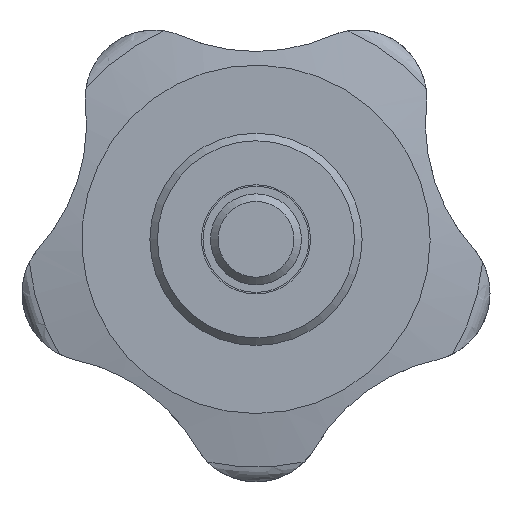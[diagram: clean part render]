
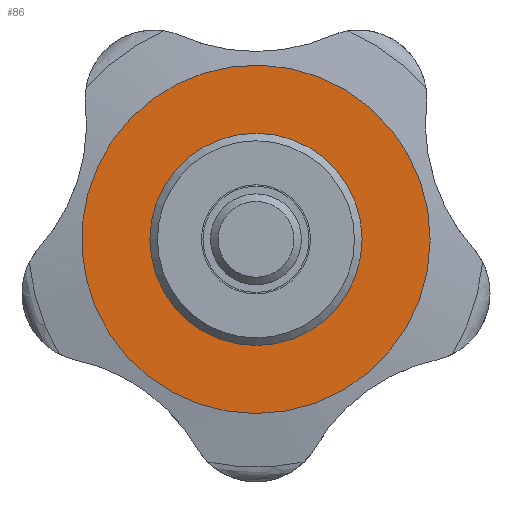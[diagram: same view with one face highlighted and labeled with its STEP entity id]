
A CAD part, front view. The second image highlights one B-rep face of the part: STEP entity #86.
In plain terms, the highlighted planar face has unit normal (0, -1, 0).
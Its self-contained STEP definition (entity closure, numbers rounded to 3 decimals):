
#86 = ADVANCED_FACE( '', ( #133, #134 ), #135, .F. );
#133 = FACE_BOUND( '', #214, .T. );
#134 = FACE_OUTER_BOUND( '', #215, .T. );
#135 = PLANE( '', #216 );
#214 = EDGE_LOOP( '', ( #419 ) );
#215 = EDGE_LOOP( '', ( #420 ) );
#216 = AXIS2_PLACEMENT_3D( '', #421, #422, #423 );
#419 = ORIENTED_EDGE( '', *, *, #617, .F. );
#420 = ORIENTED_EDGE( '', *, *, #606, .T. );
#421 = CARTESIAN_POINT( '', ( 11.49, 12.5, 0. ) );
#422 = DIRECTION( '', ( 0., 1., 0. ) );
#423 = DIRECTION( '', ( 0., 0., 1. ) );
#606 = EDGE_CURVE( '', #729, #729, #730, .T. );
#617 = EDGE_CURVE( '', #741, #741, #742, .T. );
#729 = VERTEX_POINT( '', #1220 );
#730 = CIRCLE( '', #1221, 11.49 );
#741 = VERTEX_POINT( '', #1297 );
#742 = CIRCLE( '', #1298, 7. );
#1220 = CARTESIAN_POINT( '', ( 0., 12.5, -11.49 ) );
#1221 = AXIS2_PLACEMENT_3D( '', #1406, #1407, #1408 );
#1297 = CARTESIAN_POINT( '', ( 0., 12.5, -7. ) );
#1298 = AXIS2_PLACEMENT_3D( '', #1424, #1425, #1426 );
#1406 = CARTESIAN_POINT( '', ( 0., 12.5, 0. ) );
#1407 = DIRECTION( '', ( 0., -1., 0. ) );
#1408 = DIRECTION( '', ( 0., 0., -1. ) );
#1424 = CARTESIAN_POINT( '', ( 0., 12.5, 0. ) );
#1425 = DIRECTION( '', ( 0., -1., 0. ) );
#1426 = DIRECTION( '', ( 0., 0., -1. ) );
